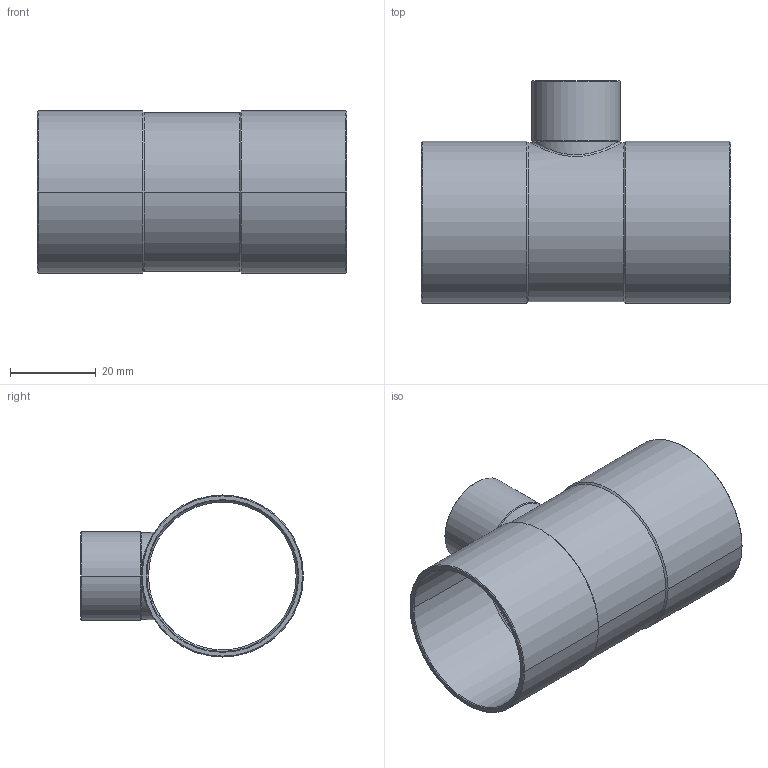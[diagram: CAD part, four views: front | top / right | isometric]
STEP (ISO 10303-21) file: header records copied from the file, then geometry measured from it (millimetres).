
FILE_DESCRIPTION((''),'2;1');
FILE_NAME('G:\Technics\CAD\Bauteile\15130\15130351835.stp','2005-11-02T10:19:48',('boden'),(''),'Autodesk Inventor 8','Autodesk Inventor 8','');
FILE_SCHEMA(('AUTOMOTIVE_DESIGN { 1 0 10303 214 1 1 1 1 }'));
Length unit declared in the file: millimetre
Products named in the file (1): 15130351835
Bounding box: 72 x 51.88 x 37.75 mm (x, y, z)
Volume: 11582.7 mm3; surface area: 18146.4 mm2
Topology: 1 solids, 1 shells, 49 faces, 112 edges, 64 vertices
Faces by surface type: cone 24, cylinder 20, plane 3, bspline 2
Entity records: 1802 total; most frequent: CARTESIAN_POINT 680, DIRECTION 238, ORIENTED_EDGE 224, EDGE_CURVE 112, AXIS2_PLACEMENT_3D 98, VERTEX_POINT 64, EDGE_LOOP 52, CIRCLE 50
